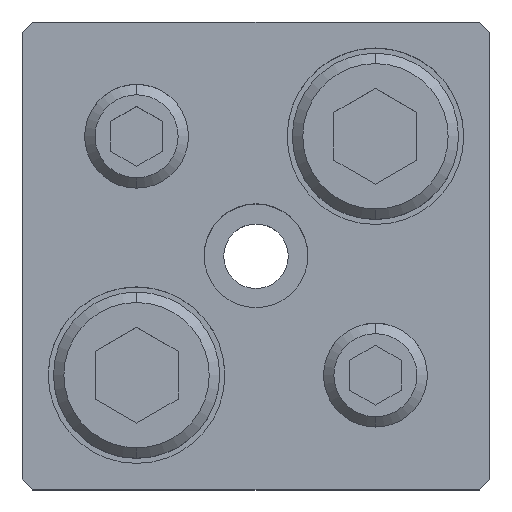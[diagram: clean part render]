
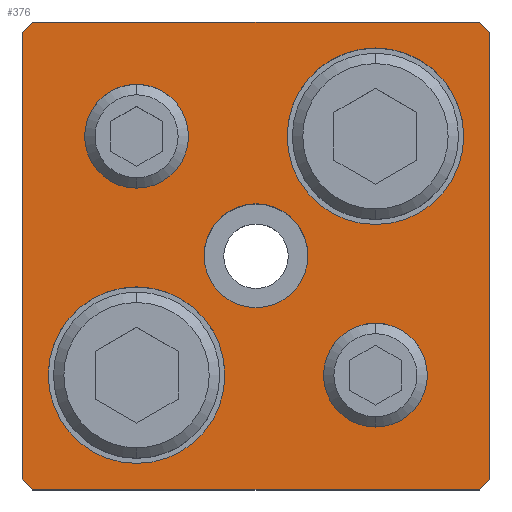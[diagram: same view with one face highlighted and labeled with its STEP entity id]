
A CAD part, top view. The second image highlights one B-rep face of the part: STEP entity #376.
In plain terms, the highlighted planar face has unit normal (0, 0, 1).
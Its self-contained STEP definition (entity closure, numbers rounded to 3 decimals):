
#139=PLANE('',#2852);
#200=FACE_BOUND('',#707,.T.);
#201=FACE_BOUND('',#708,.T.);
#202=FACE_BOUND('',#709,.T.);
#203=FACE_BOUND('',#710,.T.);
#204=FACE_BOUND('',#711,.T.);
#205=FACE_BOUND('',#712,.T.);
#376=ADVANCED_FACE('',(#200,#201,#202,#203,#204,#205),#139,.T.);
#707=EDGE_LOOP('',(#1263,#1264,#1265,#1266,#1267,#1268,#1269,#1270));
#708=EDGE_LOOP('',(#1271,#1272));
#709=EDGE_LOOP('',(#1273,#1274));
#710=EDGE_LOOP('',(#1275,#1276));
#711=EDGE_LOOP('',(#1277,#1278));
#712=EDGE_LOOP('',(#1279,#1280));
#881=CIRCLE('',#2822,5.);
#883=CIRCLE('',#2825,5.);
#885=CIRCLE('',#2828,5.);
#887=CIRCLE('',#2831,5.);
#897=CIRCLE('',#2846,8.5);
#898=CIRCLE('',#2847,8.5);
#899=CIRCLE('',#2848,8.5);
#900=CIRCLE('',#2849,8.5);
#901=CIRCLE('',#2850,5.);
#902=CIRCLE('',#2851,5.);
#1263=ORIENTED_EDGE('',*,*,#2069,.T.);
#1264=ORIENTED_EDGE('',*,*,#2070,.T.);
#1265=ORIENTED_EDGE('',*,*,#2071,.T.);
#1266=ORIENTED_EDGE('',*,*,#2072,.T.);
#1267=ORIENTED_EDGE('',*,*,#2073,.T.);
#1268=ORIENTED_EDGE('',*,*,#2074,.T.);
#1269=ORIENTED_EDGE('',*,*,#2075,.T.);
#1270=ORIENTED_EDGE('',*,*,#2076,.T.);
#1271=ORIENTED_EDGE('',*,*,#2077,.F.);
#1272=ORIENTED_EDGE('',*,*,#2078,.F.);
#1273=ORIENTED_EDGE('',*,*,#2079,.F.);
#1274=ORIENTED_EDGE('',*,*,#2080,.F.);
#1275=ORIENTED_EDGE('',*,*,#2055,.F.);
#1276=ORIENTED_EDGE('',*,*,#2051,.F.);
#1277=ORIENTED_EDGE('',*,*,#2049,.F.);
#1278=ORIENTED_EDGE('',*,*,#2045,.F.);
#1279=ORIENTED_EDGE('',*,*,#2081,.T.);
#1280=ORIENTED_EDGE('',*,*,#2082,.T.);
#1763=VERTEX_POINT('',#4143);
#1764=VERTEX_POINT('',#4144);
#1767=VERTEX_POINT('',#4155);
#1768=VERTEX_POINT('',#4156);
#1779=VERTEX_POINT('',#4191);
#1780=VERTEX_POINT('',#4192);
#1781=VERTEX_POINT('',#4194);
#1782=VERTEX_POINT('',#4196);
#1783=VERTEX_POINT('',#4198);
#1784=VERTEX_POINT('',#4200);
#1785=VERTEX_POINT('',#4202);
#1786=VERTEX_POINT('',#4204);
#1787=VERTEX_POINT('',#4207);
#1788=VERTEX_POINT('',#4208);
#1789=VERTEX_POINT('',#4211);
#1790=VERTEX_POINT('',#4212);
#1791=VERTEX_POINT('',#4215);
#1792=VERTEX_POINT('',#4216);
#2045=EDGE_CURVE('',#1763,#1764,#881,.T.);
#2049=EDGE_CURVE('',#1764,#1763,#883,.T.);
#2051=EDGE_CURVE('',#1767,#1768,#885,.T.);
#2055=EDGE_CURVE('',#1768,#1767,#887,.T.);
#2069=EDGE_CURVE('',#1779,#1780,#2347,.T.);
#2070=EDGE_CURVE('',#1780,#1781,#2348,.T.);
#2071=EDGE_CURVE('',#1781,#1782,#2349,.T.);
#2072=EDGE_CURVE('',#1782,#1783,#2350,.T.);
#2073=EDGE_CURVE('',#1783,#1784,#2351,.T.);
#2074=EDGE_CURVE('',#1784,#1785,#2352,.T.);
#2075=EDGE_CURVE('',#1785,#1786,#2353,.T.);
#2076=EDGE_CURVE('',#1786,#1779,#2354,.T.);
#2077=EDGE_CURVE('',#1787,#1788,#897,.T.);
#2078=EDGE_CURVE('',#1788,#1787,#898,.T.);
#2079=EDGE_CURVE('',#1789,#1790,#899,.T.);
#2080=EDGE_CURVE('',#1790,#1789,#900,.T.);
#2081=EDGE_CURVE('',#1791,#1792,#901,.T.);
#2082=EDGE_CURVE('',#1792,#1791,#902,.T.);
#2347=LINE('',#4190,#2563);
#2348=LINE('',#4193,#2564);
#2349=LINE('',#4195,#2565);
#2350=LINE('',#4197,#2566);
#2351=LINE('',#4199,#2567);
#2352=LINE('',#4201,#2568);
#2353=LINE('',#4203,#2569);
#2354=LINE('',#4205,#2570);
#2563=VECTOR('',#3379,1.);
#2564=VECTOR('',#3380,1.);
#2565=VECTOR('',#3381,1.);
#2566=VECTOR('',#3382,1.);
#2567=VECTOR('',#3383,1.);
#2568=VECTOR('',#3384,1.);
#2569=VECTOR('',#3385,1.);
#2570=VECTOR('',#3386,1.);
#2822=AXIS2_PLACEMENT_3D('',#4142,#3323,#3324);
#2825=AXIS2_PLACEMENT_3D('',#4151,#3331,#3332);
#2828=AXIS2_PLACEMENT_3D('',#4154,#3337,#3338);
#2831=AXIS2_PLACEMENT_3D('',#4163,#3345,#3346);
#2846=AXIS2_PLACEMENT_3D('',#4206,#3387,#3388);
#2847=AXIS2_PLACEMENT_3D('',#4209,#3389,#3390);
#2848=AXIS2_PLACEMENT_3D('',#4210,#3391,#3392);
#2849=AXIS2_PLACEMENT_3D('',#4213,#3393,#3394);
#2850=AXIS2_PLACEMENT_3D('',#4214,#3395,#3396);
#2851=AXIS2_PLACEMENT_3D('',#4217,#3397,#3398);
#2852=AXIS2_PLACEMENT_3D('',#4218,#3399,#3400);
#3323=DIRECTION('',(0.,0.,1.));
#3324=DIRECTION('',(1.,0.,0.));
#3331=DIRECTION('',(0.,0.,1.));
#3332=DIRECTION('',(-1.,0.,0.));
#3337=DIRECTION('',(0.,0.,1.));
#3338=DIRECTION('',(1.,0.,0.));
#3345=DIRECTION('',(0.,0.,1.));
#3346=DIRECTION('',(-1.,0.,0.));
#3379=DIRECTION('',(1.,0.,0.));
#3380=DIRECTION('',(0.707,0.707,0.));
#3381=DIRECTION('',(0.,1.,0.));
#3382=DIRECTION('',(-0.707,0.707,0.));
#3383=DIRECTION('',(-1.,0.,0.));
#3384=DIRECTION('',(-0.707,-0.707,0.));
#3385=DIRECTION('',(0.,-1.,0.));
#3386=DIRECTION('',(0.707,-0.707,0.));
#3387=DIRECTION('',(0.,0.,1.));
#3388=DIRECTION('',(1.,0.,0.));
#3389=DIRECTION('',(0.,0.,1.));
#3390=DIRECTION('',(-1.,0.,0.));
#3391=DIRECTION('',(0.,0.,1.));
#3392=DIRECTION('',(1.,0.,0.));
#3393=DIRECTION('',(0.,0.,1.));
#3394=DIRECTION('',(-1.,0.,0.));
#3395=DIRECTION('',(0.,0.,-1.));
#3396=DIRECTION('',(-1.,0.,0.));
#3397=DIRECTION('',(0.,0.,-1.));
#3398=DIRECTION('',(1.,0.,0.));
#3399=DIRECTION('',(0.,0.,1.));
#3400=DIRECTION('',(-1.,0.,0.));
#4142=CARTESIAN_POINT('',(11.5,-11.5,35.));
#4143=CARTESIAN_POINT('',(11.5,-6.5,35.));
#4144=CARTESIAN_POINT('',(11.5,-16.5,35.));
#4151=CARTESIAN_POINT('',(11.5,-11.5,35.));
#4154=CARTESIAN_POINT('',(-11.5,11.5,35.));
#4155=CARTESIAN_POINT('',(-11.5,16.5,35.));
#4156=CARTESIAN_POINT('',(-11.5,6.5,35.));
#4163=CARTESIAN_POINT('',(-11.5,11.5,35.));
#4190=CARTESIAN_POINT('',(21.5,-22.5,35.));
#4191=CARTESIAN_POINT('',(-21.5,-22.5,35.));
#4192=CARTESIAN_POINT('',(21.5,-22.5,35.));
#4193=CARTESIAN_POINT('',(22.5,-21.5,35.));
#4194=CARTESIAN_POINT('',(22.5,-21.5,35.));
#4195=CARTESIAN_POINT('',(22.5,21.5,35.));
#4196=CARTESIAN_POINT('',(22.5,21.5,35.));
#4197=CARTESIAN_POINT('',(21.5,22.5,35.));
#4198=CARTESIAN_POINT('',(21.5,22.5,35.));
#4199=CARTESIAN_POINT('',(-21.5,22.5,35.));
#4200=CARTESIAN_POINT('',(-21.5,22.5,35.));
#4201=CARTESIAN_POINT('',(-22.5,21.5,35.));
#4202=CARTESIAN_POINT('',(-22.5,21.5,35.));
#4203=CARTESIAN_POINT('',(-22.5,-21.5,35.));
#4204=CARTESIAN_POINT('',(-22.5,-21.5,35.));
#4205=CARTESIAN_POINT('',(-22.5,-21.5,35.));
#4206=CARTESIAN_POINT('',(-11.5,-11.5,35.));
#4207=CARTESIAN_POINT('',(-11.5,-3.,35.));
#4208=CARTESIAN_POINT('',(-11.5,-20.,35.));
#4209=CARTESIAN_POINT('',(-11.5,-11.5,35.));
#4210=CARTESIAN_POINT('',(11.5,11.5,35.));
#4211=CARTESIAN_POINT('',(11.5,20.,35.));
#4212=CARTESIAN_POINT('',(11.5,3.,35.));
#4213=CARTESIAN_POINT('',(11.5,11.5,35.));
#4214=CARTESIAN_POINT('',(0.,0.,35.));
#4215=CARTESIAN_POINT('',(0.,5.,35.));
#4216=CARTESIAN_POINT('',(0.,-5.,35.));
#4217=CARTESIAN_POINT('',(0.,0.,35.));
#4218=CARTESIAN_POINT('',(-21.5,-22.5,35.));
